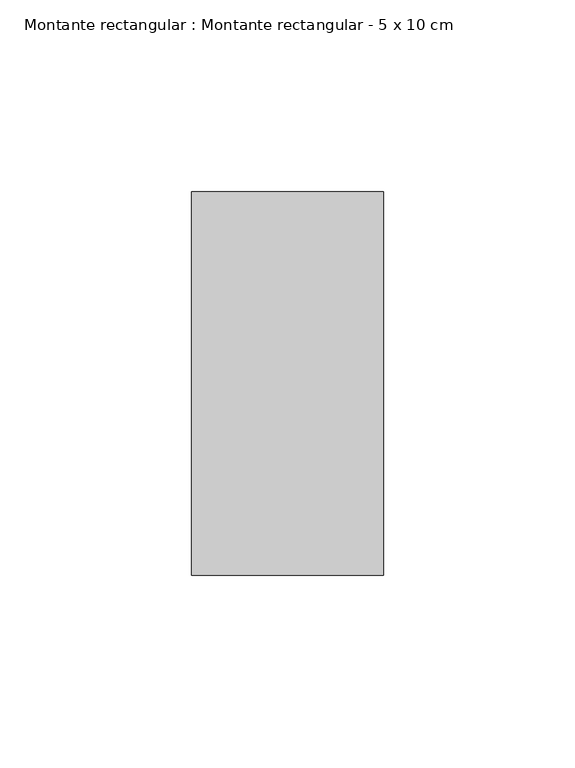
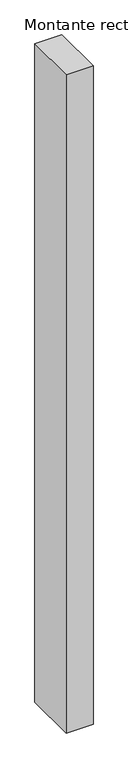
"""IFC4 building model written with IfcOpenShell, lengths in millimetres: member geometry, Montante rectangular : Montante rectangular - 5 x 10 cm."""

from ifc_helpers import new_model, si_unit, frame, origin, place, context, project, spatial, polyline, outline, extrude, source, transform, mapped, element, save


def montante_rectangular_montante_rectangular_5_x_10_cm_ac0cbf57(model_context):
    return source(origin(), model_context, "Body", "SweptSolid", [
        extrude(outline(polyline([(25.0, 50.0), (25.0, -50.0), (-25.0, -50.0), (-25.0, 50.0), (25.0, 50.0)])), frame((0.0, 0.0, -1290.0), z_axis=(0.0, 0.0, 1.0), x_axis=(1.0, 0.0, 0.0)), (0.0, 0.0, 1.0), 1290.0),
    ])


if __name__ == "__main__":
    model = new_model("IFC4")
    model_context = context("Model", 3, world=origin())
    ifc_project = project(units=[si_unit("LENGTHUNIT", "METRE", prefix="MILLI")], contexts=[model_context])
    site = spatial("IfcSite", under=ifc_project)
    building = spatial("IfcBuilding", under=site)
    placement = place(None, origin())
    montante_rectangular_montante_rectangular_5_x_10_cm_shape = montante_rectangular_montante_rectangular_5_x_10_cm_ac0cbf57(model_context)
    element("IfcMember", 1, ObjectType="Montante rectangular : Montante rectangular - 5 x 10 cm", at=placement, inside=building, context=model_context, shape_type="MappedRepresentation", body=[
        mapped(montante_rectangular_montante_rectangular_5_x_10_cm_shape, transform((0.0, 0.0, 0.0), x_axis=(1.0, 0.0, 0.0), y_axis=(0.0, 1.0, 0.0), z_axis=(0.0, 0.0, 1.0))),
    ])
    save(model, "model.ifc")
